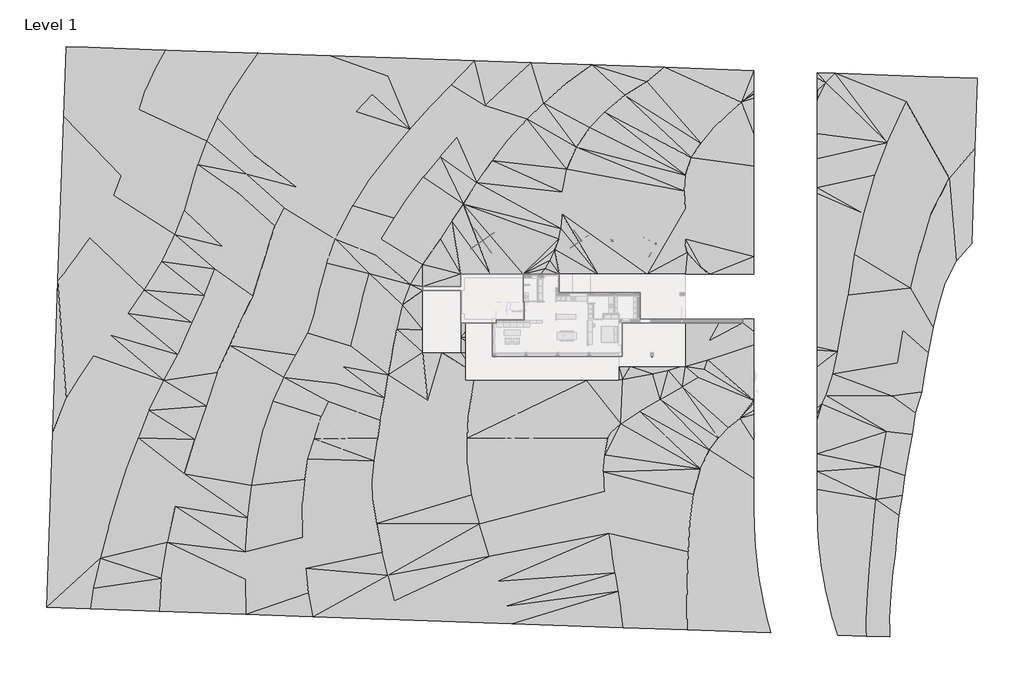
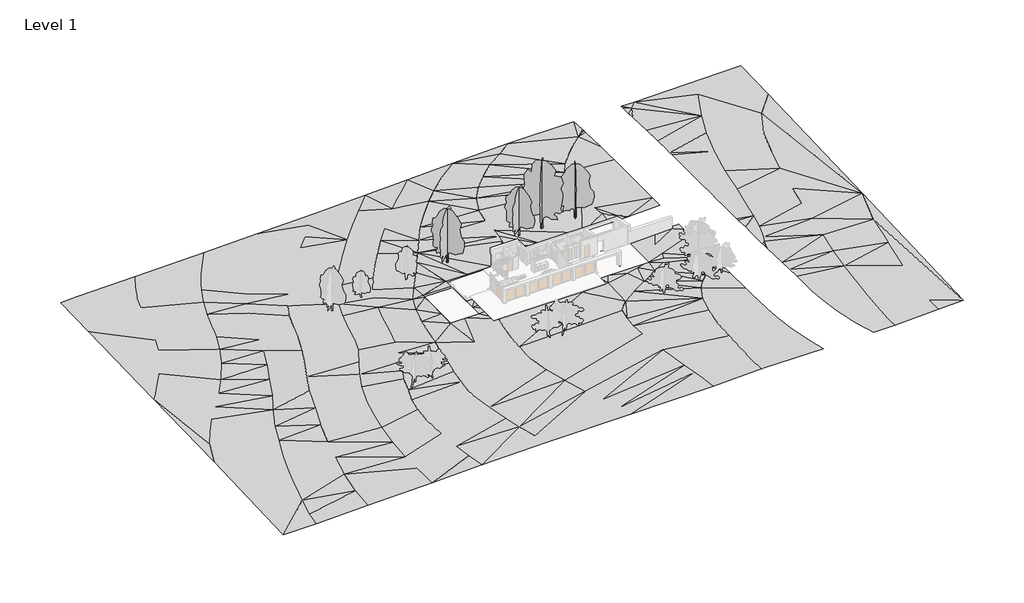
# One storey, part 3 of 3: 4 geographic elements, 3 proxies.
"""IFC4 building model written with IfcOpenShell, lengths in millimetres."""

from ifc_helpers import new_model, si_unit, origin, place, context, project, spatial, triangles, transform, mapped, element, save
from components import rpc_tree_deciduous_red_ash_10_meters_836d61de, rpc_tree_deciduous_red_ash_12_5_meters_c1333066, rpc_tree_deciduous_red_ash_9_meters_3d034f76

model = new_model("IFC4")

# Units and contexts
model_context = context("Model", 3, world=origin())
ifc_project = project(units=[si_unit("LENGTHUNIT", "METRE", prefix="MILLI")], contexts=[model_context])

# Site, building, storey
site = spatial("IfcSite", under=ifc_project)
building = spatial("IfcBuilding", under=site)
storey = spatial("IfcBuildingStorey", under=building, Name="Level 1", Elevation=0.0)

# Proxies
placement = place(None, origin())
element("IfcBuildingElementProxy", 1, Name="Building Element Proxy", at=placement, inside=storey, context=model_context, shape_type="Tessellation", body=[
    triangles([(-46953.7851562, 38871.0994446, -4500.0000343), (-49621.5199951, 38964.2565491, -4680.0000938), (-49929.7151367, 30138.6231628, -4500.0000343), (-50649.7037476, 9520.9188538, -4000.0000305), (-51317.0816162, -9590.3338028, -3500.0000267), (-52085.425415, -31592.7344055, -3200.0000244), (-46586.1889893, -31784.771521, -3000.0000229), (-37923.8781921, -32087.2670105, -2500.0000191), (-27030.4291626, -32467.6740234, -2000.0000153), (-18650.6906525, -32760.3003479, -1500.0000114), (-7695.7035187, -33142.8583923, -1000.0000076), (6366.1695557, -33633.9098145, -500.0000038), (20364.4523254, -34122.7404419, 0.0), (28439.6594238, -34404.7325317, 500.0000038), (38909.4250122, -34770.3450989, 732.5113203), (38660.0983704, -33838.7438232, 727.5312464), (38496.4269653, -33227.195105, 724.1432264), (38296.7438049, -32339.5469604, 720.0681845), (37979.8236145, -30930.749231, 711.3854296), (37970.4497681, -30879.5291016, 711.1172773), (37597.8329773, -28843.8975403, 702.2646927), (37556.0052979, -28615.3835815, 700.9963835), (37383.4948975, -27398.3625183, 695.3462923), (37225.6556946, -26284.8467651, 691.036381), (37113.2113953, -25170.6636108, 687.7205223), (36989.3073303, -23942.9083191, 683.5437424), (36919.8743591, -22793.7342773, 680.6525671), (36847.346228, -21593.3587097, 676.5660433), (36841.6116943, -21308.3412231, 675.8446484), (36800.0002808, -19240.0000305, 669.4712729), (36800.0002808, -18948.8236176, 668.7008257), (36800.0002808, -17589.3252045, 665.8135019), (36800.0002808, -15347.0574188, 652.491568), (36800.0002808, -10590.5210083, 586.4319374), (36800.0002808, -7318.6096756, 500.0000038), (36800.0002808, -7159.5135727, 500.0000038), (36800.0002808, -6801.134285, 500.0000038), (36800.0002808, -5889.4184235, 428.2519486), (36800.0002808, -5525.9638641, 427.0949335), (36800.0002808, 1452.796788, 175.4964827), (36800.0002808, 3130.8420364, 174.632055), (36800.0002808, 4335.0359756, 168.2467072), (36800.0002808, 4680.0000938, 168.2467072), (35399.9996887, 4680.0000938, 126.4799706), (35399.9996887, 4375.9878365, 126.4799706), (35399.9996887, 4200.000032, 127.4131622), (32396.1528076, 4200.000032, 38.2641161), (31155.4448181, 4200.000032, 0.0), (28199.9996338, 4200.000032, -109.999999), (22559.999707, 4200.000032, -109.999999), (20292.0009338, 4200.000032, -109.999999), (20279.9993408, 4200.000032, -110.153796), (20279.9993408, 4180.7977158, -110.1589919), (20279.9993408, 4109.2683609, -109.999999), (20279.9993408, 479.9999891, -109.999999), (20279.9993408, 0.0, -120.7865136), (19812.5581055, 0.0, -120.7865136), (19250.5784546, 0.0, -118.1668788), (17667.3262573, 0.0, -144.7757016), (14987.8142303, 0.0, -179.1166832), (14457.452417, 0.0, -245.2125943), (10418.7047516, 0.0, -308.7336262), (8427.2454941, 0.0, -355.3521832), (3959.9998558, 0.0, -459.6536656), (3959.9998558, 1855.0494152, -468.2176051), (3959.9998558, 3681.3200638, -476.3794979), (3959.9998558, 4200.000032, -485.6876143), (3049.9998779, 4200.000032, -500.0000038), (1510.8169384, 4200.000032, -700.0000053), (0.0, 4200.000032, -709.9999763), (0.0, 8279.9998306, -709.9999763), (-861.4918196, 8279.9998306, -709.9999763), (-4800.0000366, 8279.9998306, -709.9999763), (-4800.0000366, 8760.0001831, -709.9999763), (0.0, 8760.0001831, -709.9999763), (0.0, 10320.0003113, -750.0000057), (3697.284787, 10320.0003113, -750.0000057), (7800.0000595, 10320.0003113, -750.0000057), (10033.0038757, 10320.0003113, -500.0000038), (12360.0002106, 10320.0003113, -210.0000089), (12360.0002106, 8039.9999451, -275.5292212), (12940.5636108, 8039.9999451, -203.1769333), (15315.0593719, 8039.9999451, -172.7451063), (18343.2756958, 8039.9999451, -109.999999), (22559.999707, 8039.9999451, -109.999999), (22559.999707, 4680.0000938, -109.999999), (23649.3332153, 4680.0000938, -109.999999), (28199.9996338, 4680.0000938, -109.999999), (28199.9996338, 6685.1878738, -109.999999), (28199.9996338, 10320.0003113, -109.999999), (31160.4561401, 10320.0003113, 0.0), (31293.4410461, 10320.0003113, 3.8013986), (36800.0002808, 10320.0003113, 157.6770761), (36800.0002808, 11108.9823853, 154.3134007), (36800.0002808, 12545.184256, 145.0686252), (36800.0002808, 18352.7413971, 191.7683274), (36800.0002808, 23927.8883057, 163.1350824), (36800.0002808, 25676.6234253, 137.0813856), (36800.0002808, 27954.2634705, 98.0944394), (36800.0002808, 32439.4827209, 0.0), (36800.0002808, 32632.8569641, 0.0), (36800.0002808, 32989.4235718, 0.0), (36800.0002808, 33016.9428223, -1.2834803), (36800.0002808, 33373.8745239, -43.6492116), (36800.0002808, 35946.3523865, -238.3495866), (25573.0041687, 36338.4075256, -500.0000038), (16435.5223755, 36657.4950256, -1000.0000076), (8829.2006104, 36923.1136963, -1500.0000114), (1661.476783, 37173.4170227, -2000.0000153), (-6929.3345993, 37473.4126648, -2500.0000191), (-16521.2113312, 37808.3689636, -3000.0000229), (-25508.4732239, 38122.2125977, -3500.0000267), (-37176.9284363, 38529.683075, -4000.0000305), (50954.1874878, -35190.9566345, 1000.0000076), (58272.5640381, -35446.520105, 1500.0000114), (62444.7651855, -35592.215863, 1800.0000137), (63558.9250854, -3686.8092636, 1500.0000114), (64599.5545898, 26112.9084229, 1000.0000076), (64908.6706055, 34964.7750916, 700.0000053), (58517.2514282, 35187.9684448, 500.0000038), (47027.1946289, 35589.2090698, 0.0), (44800.0003418, 35666.9857178, -51.9058252), (44800.0003418, 34981.1810669, 0.0), (44800.0003418, 34115.1083496, 0.0), (44800.0003418, 33916.8762634, 0.0), (44800.0003418, 33509.6150757, 0.0), (44800.0003418, 32201.0321594, 59.4666146), (44800.0003418, 28019.1362549, 245.6447627), (44800.0003418, 24843.7672852, 272.1664541), (44800.0003418, 22148.3178589, 331.1175797), (44800.0003418, 21191.2437195, 347.5000826), (44800.0003418, 20456.4164795, 358.4479245), (44800.0003418, 18113.7176147, 370.4797482), (44800.0003418, 15673.3572693, 350.8563457), (44800.0003418, 12199.8251038, 373.2153371), (44800.0003418, 8288.7045319, 389.8896463), (44800.0003418, 7643.0485931, 389.8896463), (44800.0003418, 4642.4416306, 406.9137889), (44800.0003418, 4101.0258408, 406.9137889), (44800.0003418, 1188.6174191, 422.357105), (44800.0003418, 788.1837215, 422.5633787), (44800.0003418, -1359.7290676, 500.0000038), (44800.0003418, -3180.1678047, 500.0000038), (44800.0003418, -5058.3575226, 500.0000038), (44800.0003418, -5738.4939148, 500.0000038), (44800.0003418, -6174.5248581, 500.0000038), (44800.0003418, -6407.8513138, 500.0000038), (44800.0003418, -6440.0976013, 501.6879458), (44800.0003418, -6457.6145554, 501.8563222), (44800.0003418, -7315.7953125, 554.9484667), (44800.0003418, -7850.5179062, 558.4124994), (44800.0003418, -12295.5808868, 744.9342539), (44800.0003418, -14470.3400024, 802.3834362), (44800.0003418, -16743.1710388, 833.9488787), (44800.0003418, -17814.6009888, 840.3145512), (44800.0003418, -19240.0000305, 843.3418373), (44828.6637085, -20610.7605469, 846.8766506), (44844.1557861, -21351.6269531, 849.1722227), (44866.1776978, -21702.2032288, 850.5764248), (44976.552356, -23459.5610779, 856.6501093), (45104.8887085, -24682.6701416, 861.9936785), (45196.9575073, -25560.1189087, 865.0557009), (45219.3375366, -25711.9259216, 865.7265902), (45360.2080078, -26667.5303833, 869.5438717), (45504.9805664, -27649.6262512, 874.2256353), (45839.6717651, -29407.1608337, 884.2656475), (45900.091333, -29724.4298401, 885.6971008), (46010.5543579, -30196.228949, 888.2806641), (46381.5875244, -31780.8996643, 898.3694378), (46689.7640625, -32886.6065918, 906.4997555), (46829.048584, -33386.3621338, 909.3915121), (46948.6412842, -33815.4452454, 911.7909296), (47353.9886353, -35065.2364014, 920.047257), (-47804.900647, 36159.5323975, -4500.0000343), (-48724.0677979, 33562.1583801, -4500.0000343), (-38506.7844727, 36116.535022, -4000.0000305), (-39653.0307861, 33473.7591248, -4000.0000305), (-40409.8031982, 31009.0118958, -4000.0000305), (-41173.2589233, 28352.8693726, -4000.0000305), (-41642.9372314, 25878.0971741, -4000.0000305), (-42713.5323486, 22657.7937378, -4000.0000305), (-43661.7023804, 20199.7321472, -4000.0000305), (-45095.038147, 17566.9823822, -4000.0000305), (-46627.4190308, 14841.8766266, -4000.0000305), (-48235.4418091, 12694.2995728, -4000.0000305), (-49645.3883057, 10731.4345001, -4000.0000305), (-27175.2342773, 35724.1496704, -3500.0000267), (-29021.5587891, 32955.8535278, -3500.0000267), (-30624.0493469, 30012.4052856, -3500.0000267), (-31976.8946777, 27060.2412964, -3500.0000267), (-33080.0924561, 24099.3592346, -3500.0000267), (-33927.8337341, 21296.190802, -3500.0000267), (-34781.3862854, 18326.5906677, -3500.0000267), (-35970.7067139, 15285.3983917, -3500.0000267), (-37587.7266174, 11925.8755463, -3500.0000267), (-39795.9708984, 8337.0475113, -3500.0000267), (-41814.5407104, 5408.1309402, -3500.0000267), (-44076.9421509, 2654.36269, -3500.0000267), (-46167.1029419, 61.2133739, -3500.0000267), (-47927.3071289, -2626.7751297, -3500.0000267), (-49604.2931396, -5317.6696014, -3500.0000267), (-18248.1733612, 35796.273175, -3000.0000229), (-19974.6947205, 33803.4134216, -3000.0000229), (-21593.2842957, 31806.7864563, -3000.0000229), (-23255.3898193, 29595.5586365, -3000.0000229), (-24777.3597107, 27271.3749207, -3000.0000229), (-25892.2823547, 25257.1583313, -3000.0000229), (-27018.5136108, 22919.1568542, -3000.0000229), (-27995.588855, 20520.1125916, -3000.0000229), (-29188.3067505, 17206.4846191, -3000.0000229), (-30050.0425232, 13881.2980499, -3000.0000229), (-30938.7045593, 10971.2838135, -3000.0000229), (-32256.9845581, 7620.6162415, -3000.0000229), (-33824.946991, 4237.245433, -3000.0000229), (-35580.0700928, 239.0619341, -3000.0000229), (-37350.5620239, -3012.9672546, -3000.0000229), (-39222.5826416, -6799.9523804, -3000.0000229), (-40545.1949341, -10274.7379578, -3000.0000229), (-42002.0408936, -14034.7979828, -3000.0000229), (-43162.0538086, -17598.1083893, -3000.0000229), (-44249.9036865, -21357.4870605, -3000.0000229), (-45323.368396, -25428.6664673, -3000.0000229), (-46221.2205688, -29177.281842, -3000.0000229), (-9207.6158844, 35240.5629089, -2500.0000191), (-11137.4748322, 32896.1687988, -2500.0000191), (-13153.5389832, 30774.0401917, -2500.0000191), (-15247.4646606, 28216.1219055, -2500.0000191), (-17270.0830627, 25906.290802, -2500.0000191), (-19073.7148315, 23588.8113281, -2500.0000191), (-20693.0811035, 21300.916095, -2500.0000191), (-22295.797229, 18727.4115509, -2500.0000191), (-23423.2842224, 16353.4332001, -2500.0000191), (-24353.7553345, 13432.2708069, -2500.0000191), (-25088.5174622, 10958.1299652, -2500.0000191), (-26199.9356689, 7600.2389969, -2500.0000191), (-27677.9291748, 4420.8417847, -2500.0000191), (-29068.8419495, 1362.6733646, -2500.0000191), (-30620.5100281, -2019.7133469, -2500.0000191), (-32028.0008606, -6243.5729691, -2500.0000191), (-33490.206958, -10465.5216614, -2500.0000191), (-34799.5316895, -14780.4606079, -2500.0000191), (-35888.395459, -18900.40448, -2500.0000191), (-36927.5204041, -23400.083313, -2500.0000191), (-37652.0319946, -27910.747522, -2500.0000191), (-1225.6073124, 34171.2956177, -2000.0000153), (-3648.3432976, 31635.8806091, -2000.0000153), (-6424.0677658, 28541.1532288, -2000.0000153), (-9011.1389236, 25392.2012512, -2000.0000153), (-11703.3368042, 21961.1013794, -2000.0000153), (-13619.3221802, 18931.6246674, -2000.0000153), (-15354.9615875, 15610.0309021, -2000.0000153), (-15816.3997009, 14760.0002289, -2000.0000153), (-16870.9841675, 11756.7637756, -2000.0000153), (-17690.999231, 8736.6510269, -2000.0000153), (-18369.9391846, 5663.9763702, -2000.0000153), (-19269.4435822, 2924.0959351, -2000.0000153), (-20752.9518677, 173.7010799, -2000.0000153), (-22280.0005188, -2631.1739891, -2000.0000153), (-23670.9598022, -5631.3481293, -2000.0000153), (-24842.2999329, -9163.19534, -2000.0000153), (-25629.6914062, -12613.1766174, -2000.0000153), (-26299.6900452, -16248.276828, -2000.0000153), (-26825.9997803, -20338.5608826, -2000.0000153), (-27084.4653992, -24602.5447998, -2000.0000153), (-27095.4089172, -28053.4411377, -2000.0000153), (6530.6461441, 34783.9791504, -1500.0000114), (4620.450531, 33002.6925293, -1500.0000114), (3066.3930634, 31553.5112183, -1500.0000114), (1370.8141468, 29639.4420044, -1500.0000114), (-516.9754938, 27531.0776733, -1500.0000114), (-2589.5535645, 25118.0621704, -1500.0000114), (-4750.6559555, 22542.4449646, -1500.0000114), (-6663.5223358, 19958.1585205, -1500.0000114), (-8368.0799194, 17408.0223175, -1500.0000114), (-9995.6712708, 14760.0002289, -1500.0000114), (-10808.2844604, 12770.9914032, -1500.0000114), (-11554.044754, 10394.4876251, -1500.0000114), (-12309.9183838, 7728.3753616, -1500.0000114), (-13047.5361511, 4398.854464, -1500.0000114), (-13860.6748901, 1279.0866062, -1500.0000114), (-14860.4510742, -1254.238995, -1500.0000114), (-15805.8515076, -3416.6545326, -1500.0000114), (-16671.3963501, -5664.7048141, -1500.0000114), (-17541.7176453, -7559.6763565, -1500.0000114), (-18441.5638824, -10402.0778595, -1500.0000114), (-19243.3021545, -12898.8242981, -1500.0000114), (-19666.0740234, -15456.4414398, -1500.0000114), (-19962.7233582, -18494.8303986, -1500.0000114), (-19872.700946, -22737.6377014, -1500.0000114), (-19533.1565552, -26655.7031982, -1500.0000114), (-19165.366214, -29764.932019, -1500.0000114), (13174.4621246, 34260.8064331, -1000.0000076), (10405.5125336, 31837.5217896, -1000.0000076), (8308.4335602, 29829.0304321, -1000.0000076), (5971.4750427, 27226.3102295, -1000.0000076), (3908.0937218, 24614.039447, -1000.0000076), (2003.1268593, 21831.8883362, -1000.0000076), (266.1277421, 19153.4367096, -1000.0000076), (-1178.1869511, 17012.5859894, -1000.0000076), (-2626.3231224, 14760.0002289, -1000.0000076), (-9670.766684, -5234.5560699, -1000.0000076), (-10129.5131012, -8064.3926422, -1000.0000076), (-10459.8429382, -10240.0005432, -1000.0000076), (-10887.4924164, -13162.0338135, -1000.0000076), (-11139.5316833, -15673.213092, -1000.0000076), (-11057.54599, -18031.7098297, -1000.0000076), (-10558.8531738, -21007.3619202, -1000.0000076), (-9864.2281311, -24647.244397, -1000.0000076), (-9199.4791718, -27573.9122681, -1000.0000076), (-8378.2269745, -30725.1757324, -1000.0000076), (23374.466272, 34562.002002, -500.0000038), (20575.6394348, 32851.9273132, -500.0000038), (18089.8202362, 30692.6637634, -500.0000038), (16213.5138336, 28731.2439514, -500.0000038), (14486.0692749, 26326.369812, -500.0000038), (13292.4026001, 23519.3806824, -500.0000038), (12753.4122437, 20634.7474548, -500.0000038), (12712.5914795, 17897.0633972, -500.0000038), (12540.1078217, 16095.2745392, -500.0000038), (12275.3890961, 14760.0002289, -500.0000038), (11804.7329407, 13441.0074829, -500.0000038), (10591.4779266, 11009.3431183, -500.0000038), (1331.2318245, -4805.3549423, -500.0000038), (922.3623047, -7548.4032074, -500.0000038), (772.1115194, -10240.0005432, -500.0000038), (766.9000643, -13569.0147858, -500.0000038), (1289.7362469, -17422.0249512, -500.0000038), (2312.654187, -21073.369519, -500.0000038), (3539.1485092, -25170.082251, -500.0000038), (4579.2629288, -28328.9871094, -500.0000038), (5566.5724319, -31431.2675171, -500.0000038), (45853.6151001, 34398.4817505, 0.0), (44827.8870117, 33510.6312927, 0.0), (35253.3202698, 31973.9576477, 0.0), (33432.2849121, 30398.3607971, 0.0), (31588.2416565, 28598.7125061, 0.0), (30117.9988403, 26827.432251, 0.0), (28934.4757324, 24963.294873, 0.0), (28154.5651978, 22795.1016357, 0.0), (28083.7718445, 20767.8370056, 0.0), (28215.5079895, 18609.2292297, 0.0), (28265.9444458, 16494.8850311, 0.0), (28205.2621033, 14760.0002289, 0.0), (18471.3434601, -10240.0005432, 0.0), (18084.2194153, -12416.7153534, 0.0), (17884.7978668, -14539.6392609, 0.0), (17986.1963287, -17017.6101013, 0.0), (18234.1823547, -19782.5971436, 0.0), (18555.6592438, -22236.9287292, 0.0), (18941.8891571, -24630.8802795, 0.0), (19351.754837, -27244.9114197, 0.0), (19740.1695007, -29576.294696, 0.0), (20072.572467, -31717.789563, 0.0), (55928.7396606, 31997.6980591, 500.0000038), (53559.0191895, 26888.0518066, 500.0000038), (51971.7532837, 22768.1265381, 500.0000038), (50597.9627197, 17940.4851654, 500.0000038), (49433.4756592, 12831.6249115, 500.0000038), (48652.0024292, 7709.3893112, 500.0000038), (47920.2005859, 4009.7558304, 500.0000038), (47307.3914795, 579.8782677, 500.0000038), (46717.5019043, -2193.4137909, 500.0000038), (45855.9544922, -4902.4368073, 500.0000038), (45362.7241333, -5982.3604248, 500.0000038), (35009.9304749, -7826.9832962, 500.0000038), (33598.0980469, -9037.6710251, 500.0000038), (32346.5883911, -10240.0005432, 500.0000038), (31202.6024048, -11747.9096649, 500.0000038), (30077.0269226, -14173.8022888, 500.0000038), (29198.2782349, -17375.2638519, 500.0000038), (28765.9395081, -20911.9700684, 500.0000038), (28564.7052795, -24599.8635681, 500.0000038), (28438.3595032, -28217.9241211, 500.0000038), (28389.4299316, -31693.7887024, 500.0000038), (61343.7719238, 22403.0046387, 1000.0000076), (58950.3505737, 17737.2731506, 1000.0000076), (57613.0415039, 12972.2128418, 1000.0000076), (56515.3875732, 8600.577356, 1000.0000076), (55510.6209961, 3280.7064354, 1000.0000076), (54799.2923218, -852.421225, 1000.0000076), (54150.8900391, -4987.7461349, 1000.0000076), (53428.5759888, -9435.4874405, 1000.0000076), (52643.3355469, -13881.0317871, 1000.0000076), (52120.7767456, -18020.7511963, 1000.0000076), (51728.4611572, -22039.0198792, 1000.0000076), (51333.9410522, -26120.2103027, 1000.0000076), (51080.654187, -29765.3366455, 1000.0000076), (50899.0745728, -33160.9712402, 1000.0000076), (61573.4462769, -10338.8538116, 1500.0000114), (60470.1275757, -16691.1439819, 1500.0000114), (59366.8088745, -23043.4353149, 1500.0000114), (58624.3890747, -28526.835498, 1500.0000114), (58254.402356, -32811.1902649, 1500.0000114), (-4801.5566277, 11560.2036804, -1000.0000076), (-6370.3390686, 9037.8756638, -1000.0000076), (-7365.2742691, 6473.2938309, -1000.0000076), (-8635.5490585, 498.587808, -1000.0000076), (-9124.5680466, -2362.4723671, -1000.0000076), (-8095.3169174, 3438.4465164, -1000.0000076), (11160.2862305, 12039.2221161, -500.0000038), (2702.0429192, 2377.423344, -500.0000038), (2303.142849, 360.00001, -500.0000038), (1807.3141022, -2182.6769463, -500.0000038), (18916.3302521, -9569.6083237, 0.0), (20065.3147705, -8502.3664902, 0.0), (22441.5860046, -6921.7059952, 0.0), (25036.0648499, -5423.7730087, 0.0), (27818.9949829, -3858.3874535, 0.0), (29810.6524841, -2636.3684395, 0.0), (30599.0369202, -1658.8143002, 0.0), (31010.1629883, -467.3099934, 0.0), (31117.4424866, 1924.8843967, 0.0), (31160.4561401, 10340.0002533, 0.0), (30164.3727539, 11231.2098083, 0.0), (29113.3183044, 12217.3937988, 0.0), (28462.1813049, 13061.4166992, 0.0), (28207.9177551, 13840.0005707, 0.0), (-4800.0000366, 479.9999891, -709.9999763), (-4800.0000366, 3306.9086151, -709.9999763), (-4800.0000366, 6085.5692413, -709.9999763), (-2400.0000183, 479.9999891, -709.9999763), (0.0, 479.9999891, -709.9999763), (0.0, 2460.000135, -709.9999763), (-4172.7040237, -5528.9671692, -750.0000057), (21175.4284058, 479.9999891, -109.999999), (19846.5699829, -1300.0000099, -150.0000011), (21258.572168, -1300.0000099, -109.999999), (27660.0000366, -1300.0000099, -109.999999), (28199.9996338, -1300.0000099, -109.999999), (28199.9996338, 1961.4645767, -109.999999), (23399.9995972, 10320.0003113, -109.999999), (17186.2207397, 10320.0003113, -109.999999), (15763.538974, -3046.4381767, -169.9999977), (20327.2848267, -2939.360701, -150.0000011), (24071.1586304, -2208.8548542, -100.0000008), (26025.0579712, -1789.801363, -100.0000008)], [[6, 7, 223], [223, 7, 8], [6, 223, 222], [223, 244, 222], [244, 223, 8], [243, 244, 265], [222, 244, 243], [5, 6, 222], [220, 242, 219], [243, 220, 221], [5, 221, 220], [5, 222, 221], [243, 242, 220], [242, 243, 264], [219, 241, 218], [263, 241, 242], [262, 240, 241], [242, 241, 219], [221, 222, 243], [218, 241, 240], [244, 8, 9], [5, 220, 219], [264, 265, 290], [9, 265, 244], [291, 265, 9], [265, 264, 243], [288, 289, 307], [10, 291, 9], [285, 303, 284], [290, 289, 264], [289, 290, 308], [291, 290, 265], [264, 289, 263], [262, 287, 261], [288, 262, 263], [262, 261, 240], [263, 262, 241], [288, 287, 262], [305, 286, 287], [261, 286, 260], [304, 285, 286], [306, 287, 288], [287, 286, 261], [263, 289, 288], [240, 261, 260], [309, 290, 291], [264, 263, 242], [285, 260, 286], [5, 218, 201], [218, 5, 219], [201, 218, 217], [5, 201, 4], [217, 239, 216], [217, 218, 240], [215, 216, 238], [201, 217, 200], [239, 217, 240], [199, 217, 216], [216, 198, 199], [199, 200, 217], [199, 198, 4], [200, 199, 4], [215, 214, 197], [214, 215, 237], [196, 214, 213], [214, 196, 197], [214, 236, 213], [215, 197, 198], [215, 198, 216], [198, 197, 4], [239, 238, 216], [201, 200, 4], [239, 259, 238], [259, 239, 260], [260, 285, 259], [238, 259, 258], [284, 283, 258], [302, 283, 284], [258, 282, 257], [282, 258, 283], [283, 301, 282], [284, 258, 259], [285, 284, 259], [238, 258, 237], [236, 256, 235], [257, 236, 237], [236, 235, 213], [236, 214, 237], [257, 281, 256], [257, 237, 258], [255, 235, 256], [280, 255, 256], [256, 281, 280], [256, 236, 257], [282, 281, 257], [234, 235, 255], [282, 301, 281], [237, 215, 238], [240, 260, 239], [212, 213, 235], [10, 309, 291], [305, 306, 327], [307, 306, 288], [308, 307, 289], [306, 307, 327], [309, 328, 308], [310, 309, 10], [11, 310, 10], [328, 307, 308], [308, 290, 309], [309, 310, 329], [303, 325, 424], [304, 326, 303], [302, 284, 303], [303, 285, 304], [302, 424, 301], [424, 302, 303], [398, 280, 281], [398, 301, 424], [398, 424, 418], [398, 281, 301], [326, 304, 305], [301, 283, 302], [310, 11, 330], [304, 286, 305], [326, 345, 325], [327, 326, 305], [328, 327, 307], [326, 327, 346], [349, 329, 330], [12, 331, 11], [329, 348, 328], [329, 310, 330], [327, 328, 347], [330, 11, 331], [328, 309, 329], [330, 331, 351], [323, 324, 63], [433, 324, 325], [324, 323, 424], [325, 324, 424], [324, 433, 63], [323, 64, 403], [59, 60, 433], [59, 433, 426], [403, 421, 323], [433, 325, 344], [424, 323, 421], [352, 331, 12], [326, 325, 303], [60, 61, 433], [279, 280, 397], [397, 280, 398], [418, 399, 397], [419, 399, 418], [421, 423, 419], [418, 424, 421], [422, 423, 421], [423, 422, 402], [403, 422, 421], [421, 419, 418], [398, 418, 397], [419, 423, 70], [279, 399, 278], [399, 279, 397], [278, 399, 396], [279, 254, 255], [72, 420, 70], [396, 399, 419], [278, 396, 277], [420, 73, 396], [419, 420, 396], [419, 70, 420], [278, 254, 279], [423, 69, 70], [279, 255, 280], [401, 402, 65], [402, 422, 403], [65, 402, 64], [401, 69, 423], [63, 433, 62], [65, 66, 401], [63, 64, 323], [433, 61, 62], [68, 66, 67], [68, 69, 401], [80, 81, 82], [401, 66, 68], [401, 423, 402], [403, 64, 402], [80, 82, 83], [83, 84, 432], [305, 287, 306], [71, 72, 70], [3, 4, 186], [4, 197, 186], [186, 197, 185], [185, 3, 186], [213, 195, 196], [213, 212, 195], [195, 212, 194], [185, 196, 184], [196, 185, 197], [184, 196, 195], [183, 3, 184], [184, 195, 183], [182, 183, 194], [182, 3, 183], [193, 181, 182], [211, 193, 194], [180, 181, 192], [192, 181, 193], [192, 193, 210], [193, 182, 194], [195, 194, 183], [184, 3, 185], [211, 194, 212], [182, 181, 3], [211, 234, 233], [234, 211, 212], [233, 234, 254], [210, 211, 233], [254, 253, 233], [277, 252, 253], [232, 253, 252], [276, 251, 252], [251, 275, 250], [233, 253, 232], [212, 235, 234], [251, 231, 252], [209, 231, 208], [232, 209, 210], [192, 209, 191], [210, 209, 192], [232, 231, 209], [232, 252, 231], [230, 250, 229], [230, 231, 251], [250, 230, 251], [231, 230, 208], [210, 233, 232], [208, 230, 207], [253, 254, 278], [211, 210, 193], [234, 255, 254], [208, 191, 209], [3, 180, 179], [180, 3, 181], [179, 180, 191], [175, 3, 179], [179, 190, 178], [190, 179, 191], [191, 208, 190], [177, 178, 189], [180, 192, 191], [175, 179, 178], [2, 175, 174], [175, 2, 3], [175, 178, 174], [2, 174, 1], [177, 176, 1], [176, 177, 189], [113, 1, 176], [176, 188, 113], [177, 1, 174], [178, 177, 174], [190, 189, 178], [189, 207, 206], [207, 189, 190], [206, 207, 229], [188, 189, 206], [229, 228, 205], [228, 229, 249], [204, 228, 227], [228, 204, 205], [228, 249, 227], [229, 205, 206], [208, 207, 190], [188, 206, 205], [187, 204, 112], [187, 188, 205], [187, 112, 113], [188, 187, 113], [204, 203, 112], [204, 227, 203], [111, 112, 202], [202, 203, 226], [202, 225, 111], [202, 112, 203], [205, 204, 187], [227, 226, 203], [189, 188, 176], [230, 229, 207], [250, 249, 229], [395, 276, 277], [278, 277, 253], [74, 395, 73], [74, 394, 395], [72, 73, 420], [74, 75, 76], [395, 277, 396], [76, 394, 74], [275, 394, 274], [394, 275, 276], [274, 249, 250], [274, 250, 275], [300, 273, 274], [300, 394, 76], [272, 273, 299], [299, 273, 300], [300, 76, 299], [300, 274, 394], [276, 395, 394], [274, 273, 249], [76, 77, 299], [275, 251, 276], [298, 77, 78], [77, 298, 299], [79, 80, 322], [321, 80, 432], [80, 400, 322], [79, 322, 78], [400, 78, 322], [321, 320, 78], [321, 78, 400], [321, 400, 80], [78, 320, 298], [298, 319, 297], [319, 320, 432], [319, 318, 297], [341, 317, 318], [319, 432, 318], [298, 320, 319], [321, 432, 320], [272, 299, 298], [317, 340, 316], [83, 432, 80], [317, 297, 318], [248, 272, 247], [248, 249, 273], [248, 247, 226], [248, 226, 227], [272, 271, 247], [297, 270, 271], [247, 270, 246], [296, 269, 270], [272, 298, 271], [271, 270, 247], [272, 248, 273], [246, 270, 269], [225, 224, 111], [226, 247, 225], [225, 247, 224], [225, 202, 226], [246, 245, 110], [246, 269, 245], [109, 110, 245], [245, 268, 109], [246, 110, 224], [246, 224, 247], [224, 110, 111], [245, 269, 268], [227, 249, 248], [296, 316, 295], [296, 297, 317], [295, 268, 269], [295, 269, 296], [316, 315, 294], [315, 316, 340], [293, 315, 314], [315, 293, 294], [315, 339, 314], [316, 294, 295], [317, 316, 296], [295, 294, 268], [294, 266, 267], [267, 268, 294], [267, 266, 109], [268, 267, 109], [293, 292, 108], [293, 314, 292], [107, 108, 292], [292, 313, 107], [293, 108, 266], [293, 266, 294], [266, 108, 109], [313, 292, 314], [296, 270, 297], [297, 271, 298], [432, 431, 318], [252, 277, 276], [73, 395, 396], [12, 353, 352], [352, 351, 331], [353, 13, 374], [352, 353, 374], [24, 372, 373], [14, 374, 13], [374, 21, 373], [374, 373, 352], [352, 373, 351], [371, 348, 349], [349, 348, 329], [330, 350, 349], [372, 349, 350], [372, 371, 349], [372, 351, 373], [348, 371, 370], [370, 30, 31], [27, 371, 372], [372, 350, 351], [351, 350, 330], [32, 370, 31], [374, 14, 18], [353, 12, 13], [373, 23, 24], [23, 373, 22], [18, 19, 374], [21, 374, 20], [21, 22, 373], [19, 20, 374], [371, 30, 370], [30, 371, 29], [26, 372, 25], [28, 371, 27], [27, 372, 26], [371, 28, 29], [25, 372, 24], [14, 17, 18], [369, 345, 346], [347, 346, 327], [370, 346, 347], [344, 325, 345], [345, 404, 344], [405, 404, 345], [369, 405, 345], [433, 404, 405], [347, 348, 370], [433, 344, 404], [405, 406, 434], [406, 405, 369], [434, 406, 435], [434, 433, 405], [407, 408, 436], [407, 406, 368], [434, 435, 427], [436, 435, 407], [436, 408, 428], [407, 435, 406], [407, 367, 408], [425, 435, 436], [369, 346, 370], [433, 434, 426], [368, 34, 367], [33, 368, 369], [366, 408, 367], [367, 407, 368], [34, 366, 367], [366, 365, 409], [365, 366, 34], [34, 35, 365], [34, 368, 33], [370, 32, 369], [366, 409, 408], [409, 39, 410], [409, 365, 39], [411, 410, 39], [429, 408, 409], [37, 365, 36], [39, 365, 38], [38, 365, 37], [365, 35, 36], [368, 406, 369], [32, 33, 369], [429, 409, 410], [348, 347, 328], [14, 16, 17], [16, 14, 15], [167, 168, 387], [166, 167, 387], [386, 161, 162], [386, 163, 164], [164, 165, 386], [387, 165, 166], [163, 386, 162], [160, 161, 385], [387, 168, 169], [388, 171, 172], [388, 172, 173], [393, 114, 115], [393, 388, 114], [114, 388, 173], [115, 116, 393], [171, 388, 170], [387, 386, 165], [388, 387, 169], [386, 387, 392], [386, 385, 161], [391, 386, 392], [393, 116, 392], [385, 391, 384], [385, 386, 391], [116, 391, 392], [392, 387, 393], [388, 393, 387], [170, 388, 169], [116, 390, 391], [160, 385, 159], [149, 364, 148], [149, 150, 364], [383, 152, 153], [152, 382, 151], [151, 364, 150], [154, 384, 153], [362, 142, 143], [144, 363, 143], [146, 147, 364], [364, 145, 146], [364, 144, 145], [148, 364, 147], [154, 155, 384], [156, 157, 385], [157, 158, 385], [383, 153, 384], [156, 385, 384], [383, 390, 389], [390, 383, 384], [391, 390, 384], [158, 159, 385], [382, 152, 383], [363, 362, 143], [363, 364, 382], [362, 363, 381], [363, 144, 364], [382, 389, 381], [389, 382, 383], [362, 381, 380], [117, 381, 389], [390, 116, 389], [382, 381, 363], [151, 382, 364], [142, 362, 361], [116, 117, 389], [155, 156, 384], [117, 380, 381], [58, 426, 57], [58, 59, 426], [57, 426, 56], [56, 427, 425], [427, 56, 426], [50, 425, 436], [426, 434, 427], [425, 55, 56], [54, 51, 53], [54, 55, 425], [52, 53, 51], [54, 50, 51], [425, 50, 54], [427, 435, 425], [428, 429, 430], [429, 428, 408], [430, 429, 411], [430, 50, 436], [411, 40, 412], [411, 39, 40], [430, 412, 49], [40, 46, 412], [411, 412, 430], [410, 411, 429], [41, 46, 40], [87, 88, 89], [49, 412, 48], [42, 45, 46], [47, 48, 412], [412, 46, 47], [45, 43, 44], [50, 430, 49], [428, 430, 436], [86, 87, 85], [84, 85, 431], [431, 85, 89], [341, 318, 431], [431, 90, 416], [431, 416, 417], [89, 90, 431], [89, 85, 87], [343, 431, 417], [311, 312, 337], [313, 338, 312], [311, 106, 107], [313, 312, 107], [338, 339, 97], [313, 314, 339], [313, 339, 338], [336, 106, 311], [342, 431, 343], [340, 339, 315], [317, 341, 340], [311, 107, 312], [417, 415, 343], [432, 84, 431], [415, 414, 343], [415, 416, 90], [415, 90, 414], [96, 342, 343], [91, 414, 90], [413, 92, 414], [92, 413, 91], [414, 92, 95], [91, 413, 414], [414, 95, 343], [338, 97, 337], [342, 341, 431], [96, 341, 342], [339, 340, 97], [337, 336, 311], [336, 337, 98], [335, 334, 106], [335, 336, 99], [96, 340, 341], [336, 335, 106], [335, 99, 334], [338, 337, 312], [415, 417, 416], [106, 334, 105], [41, 42, 46], [42, 43, 45], [139, 360, 138], [137, 138, 360], [140, 360, 139], [94, 95, 92], [93, 94, 92], [136, 137, 359], [136, 359, 135], [95, 96, 343], [361, 140, 141], [360, 379, 359], [380, 360, 361], [359, 358, 135], [360, 359, 137], [378, 359, 379], [378, 117, 377], [358, 378, 377], [358, 359, 378], [117, 378, 379], [379, 360, 380], [134, 135, 358], [133, 357, 132], [357, 133, 134], [377, 376, 357], [376, 377, 117], [356, 131, 357], [131, 132, 357], [357, 376, 356], [134, 358, 357], [358, 377, 357], [380, 117, 379], [360, 140, 361], [361, 141, 142], [98, 99, 336], [99, 100, 334], [128, 129, 355], [355, 127, 128], [356, 129, 130], [101, 102, 334], [334, 102, 103], [105, 334, 104], [334, 103, 104], [100, 101, 334], [127, 333, 126], [337, 97, 98], [333, 332, 125], [333, 125, 126], [355, 129, 356], [127, 355, 332], [375, 118, 354], [375, 376, 117], [127, 332, 333], [354, 355, 375], [118, 120, 354], [375, 355, 356], [130, 131, 356], [354, 121, 355], [123, 124, 332], [122, 123, 332], [125, 332, 124], [120, 121, 354], [121, 332, 355], [332, 121, 122], [118, 119, 120], [376, 375, 356], [118, 375, 117], [97, 340, 96], [362, 380, 361], [326, 346, 345]], closed=False),
])
element("IfcBuildingElementProxy", 2, Name="Building Element Proxy", at=placement, inside=storey, context=model_context, shape_type="Tessellation", body=[
    triangles([(28199.9996338, 4680.0000938, -1000.1595182), (28199.9996338, 4680.0000938, -109.999999), (23649.3332153, 4680.0000938, -1000.1595182), (23649.3332153, 4680.0000938, -109.999999), (22559.999707, 4680.0000938, -1000.1595182), (22559.999707, 4680.0000938, -109.999999), (22559.999707, 8039.9999451, -1000.1595182), (22559.999707, 8039.9999451, -109.999999), (18343.2756958, 8039.9999451, -1000.1595182), (18343.2756958, 8039.9999451, -109.999999), (15315.0593719, 8039.9999451, -1000.1595182), (15315.0593719, 8039.9999451, -172.7451063), (12940.5636108, 8039.9999451, -1000.1595182), (12940.5636108, 8039.9999451, -203.1769333), (12360.0002106, 8039.9999451, -1000.1595182), (12360.0002106, 8039.9999451, -275.5292212), (12360.0002106, 10320.0003113, -1000.1595182), (12360.0002106, 10320.0003113, -210.0000089), (10033.0038757, 10320.0003113, -1000.1595182), (10033.0038757, 10320.0003113, -500.0000038), (7800.0000595, 10320.0003113, -1000.1595182), (7800.0000595, 10320.0003113, -750.0000057)], [[1, 4, 2], [1, 3, 4], [3, 6, 4], [3, 5, 6], [5, 8, 6], [5, 7, 8], [7, 10, 8], [7, 9, 10], [9, 12, 10], [9, 11, 12], [11, 14, 12], [11, 13, 14], [13, 16, 14], [13, 15, 16], [15, 18, 16], [15, 17, 18], [17, 20, 18], [17, 19, 20], [19, 22, 20], [19, 21, 22]], closed=False),
    triangles([(3959.9998558, 4200.000032, -1000.1595182), (3959.9998558, 4200.000032, -485.6876143), (3959.9998558, 3681.3200638, -1000.1595182), (3959.9998558, 3681.3200638, -476.3794979), (3959.9998558, 1855.0494152, -1000.1595182), (3959.9998558, 1855.0494152, -468.2176051), (3959.9998558, 0.0, -1000.1595182), (3959.9998558, 0.0, -459.6536656), (8427.2454941, 0.0, -1000.1595182), (8427.2454941, 0.0, -355.3521832), (10418.7047516, 0.0, -1000.1595182), (10418.7047516, 0.0, -308.7336262), (14457.452417, 0.0, -1000.1595182), (14457.452417, 0.0, -245.2125943), (14987.8142303, 0.0, -1000.1595182), (14987.8142303, 0.0, -179.1166832), (17667.3262573, 0.0, -1000.1595182), (17667.3262573, 0.0, -144.7757016), (19250.5784546, 0.0, -1000.1595182), (19250.5784546, 0.0, -118.1668788), (19812.5581055, 0.0, -1000.1595182), (19812.5581055, 0.0, -120.7865136), (20279.9993408, 0.0, -1000.1595182), (20279.9993408, 0.0, -120.7865136), (20279.9993408, 479.9999891, -1000.1595182), (20279.9993408, 479.9999891, -109.999999), (20279.9993408, 4109.2683609, -1000.1595182), (20279.9993408, 4109.2683609, -109.999999), (20279.9993408, 4180.7977158, -1000.1595182), (20279.9993408, 4180.7977158, -110.1589919), (20279.9993408, 4200.000032, -1000.1595182), (20279.9993408, 4200.000032, -110.153796), (20292.0009338, 4200.000032, -1000.1595182), (20292.0009338, 4200.000032, -109.999999), (22559.999707, 4200.000032, -1000.1595182), (22559.999707, 4200.000032, -109.999999), (28199.9996338, 4200.000032, -1000.1595182), (28199.9996338, 4200.000032, -109.999999), (31155.4448181, 4200.000032, -1000.1595182), (31155.4448181, 4200.000032, 0.0), (32396.1528076, 4200.000032, -1000.1595182), (32396.1528076, 4200.000032, 38.2641161), (35399.9996887, 4200.000032, -1000.1595182), (35399.9996887, 4200.000032, 127.4131622), (35399.9996887, 4375.9878365, -1000.1595182), (35399.9996887, 4375.9878365, 126.4799706), (35399.9996887, 4680.0000938, -1000.1595182), (35399.9996887, 4680.0000938, 126.4799706)], [[1, 4, 2], [1, 3, 4], [3, 6, 4], [3, 5, 6], [5, 8, 6], [5, 7, 8], [7, 10, 8], [7, 9, 10], [9, 12, 10], [9, 11, 12], [11, 14, 12], [11, 13, 14], [13, 16, 14], [13, 15, 16], [15, 18, 16], [15, 17, 18], [17, 20, 18], [17, 19, 20], [19, 22, 20], [19, 21, 22], [21, 24, 22], [21, 23, 24], [23, 26, 24], [23, 25, 26], [25, 28, 26], [25, 27, 28], [27, 30, 28], [27, 29, 30], [29, 32, 30], [29, 31, 32], [31, 34, 32], [31, 33, 34], [33, 36, 34], [33, 35, 36], [35, 38, 36], [35, 37, 38], [37, 40, 38], [37, 39, 40], [39, 42, 40], [39, 41, 42], [41, 44, 42], [41, 43, 44], [43, 46, 44], [43, 45, 46], [45, 48, 46], [45, 47, 48]], closed=False),
    triangles([(28199.9996338, 4680.0000938, -1000.1595182), (28199.9996338, 4680.0000938, -109.999999), (23649.3332153, 4680.0000938, -1000.1595182), (23649.3332153, 4680.0000938, -109.999999), (22559.999707, 4680.0000938, -1000.1595182), (22559.999707, 4680.0000938, -109.999999), (22559.999707, 8039.9999451, -1000.1595182), (22559.999707, 8039.9999451, -109.999999), (18343.2756958, 8039.9999451, -1000.1595182), (18343.2756958, 8039.9999451, -109.999999), (15315.0593719, 8039.9999451, -1000.1595182), (15315.0593719, 8039.9999451, -172.7451063), (12940.5636108, 8039.9999451, -1000.1595182), (12940.5636108, 8039.9999451, -203.1769333), (12360.0002106, 8039.9999451, -1000.1595182), (12360.0002106, 8039.9999451, -275.5292212), (12360.0002106, 10320.0003113, -1000.1595182), (12360.0002106, 10320.0003113, -210.0000089), (10033.0038757, 10320.0003113, -1000.1595182), (10033.0038757, 10320.0003113, -500.0000038), (7800.0000595, 10320.0003113, -1000.1595182), (7800.0000595, 10320.0003113, -750.0000057)], [[1, 4, 2], [1, 3, 4], [3, 6, 4], [3, 5, 6], [5, 8, 6], [5, 7, 8], [7, 10, 8], [7, 9, 10], [9, 12, 10], [9, 11, 12], [11, 14, 12], [11, 13, 14], [13, 16, 14], [13, 15, 16], [15, 18, 16], [15, 17, 18], [17, 20, 18], [17, 19, 20], [19, 22, 20], [19, 21, 22]], closed=False),
    triangles([(3959.9998558, 4200.000032, -1000.1595182), (3959.9998558, 4200.000032, -485.6876143), (3959.9998558, 3681.3200638, -1000.1595182), (3959.9998558, 3681.3200638, -476.3794979), (3959.9998558, 1855.0494152, -1000.1595182), (3959.9998558, 1855.0494152, -468.2176051), (3959.9998558, 0.0, -1000.1595182), (3959.9998558, 0.0, -459.6536656), (8427.2454941, 0.0, -1000.1595182), (8427.2454941, 0.0, -355.3521832), (10418.7047516, 0.0, -1000.1595182), (10418.7047516, 0.0, -308.7336262), (14457.452417, 0.0, -1000.1595182), (14457.452417, 0.0, -245.2125943), (14987.8142303, 0.0, -1000.1595182), (14987.8142303, 0.0, -179.1166832), (17667.3262573, 0.0, -1000.1595182), (17667.3262573, 0.0, -144.7757016), (19250.5784546, 0.0, -1000.1595182), (19250.5784546, 0.0, -118.1668788), (19812.5581055, 0.0, -1000.1595182), (19812.5581055, 0.0, -120.7865136), (20279.9993408, 0.0, -1000.1595182), (20279.9993408, 0.0, -120.7865136), (20279.9993408, 479.9999891, -1000.1595182), (20279.9993408, 479.9999891, -109.999999), (20279.9993408, 4109.2683609, -1000.1595182), (20279.9993408, 4109.2683609, -109.999999), (20279.9993408, 4180.7977158, -1000.1595182), (20279.9993408, 4180.7977158, -110.1589919), (20279.9993408, 4200.000032, -1000.1595182), (20279.9993408, 4200.000032, -110.153796), (20292.0009338, 4200.000032, -1000.1595182), (20292.0009338, 4200.000032, -109.999999), (22559.999707, 4200.000032, -1000.1595182), (22559.999707, 4200.000032, -109.999999), (28199.9996338, 4200.000032, -1000.1595182), (28199.9996338, 4200.000032, -109.999999), (31155.4448181, 4200.000032, -1000.1595182), (31155.4448181, 4200.000032, 0.0), (32396.1528076, 4200.000032, -1000.1595182), (32396.1528076, 4200.000032, 38.2641161), (35399.9996887, 4200.000032, -1000.1595182), (35399.9996887, 4200.000032, 127.4131622), (35399.9996887, 4375.9878365, -1000.1595182), (35399.9996887, 4375.9878365, 126.4799706), (35399.9996887, 4680.0000938, -1000.1595182), (35399.9996887, 4680.0000938, 126.4799706)], [[1, 4, 2], [1, 3, 4], [3, 6, 4], [3, 5, 6], [5, 8, 6], [5, 7, 8], [7, 10, 8], [7, 9, 10], [9, 12, 10], [9, 11, 12], [11, 14, 12], [11, 13, 14], [13, 16, 14], [13, 15, 16], [15, 18, 16], [15, 17, 18], [17, 20, 18], [17, 19, 20], [19, 22, 20], [19, 21, 22], [21, 24, 22], [21, 23, 24], [23, 26, 24], [23, 25, 26], [25, 28, 26], [25, 27, 28], [27, 30, 28], [27, 29, 30], [29, 32, 30], [29, 31, 32], [31, 34, 32], [31, 33, 34], [33, 36, 34], [33, 35, 36], [35, 38, 36], [35, 37, 38], [37, 40, 38], [37, 39, 40], [39, 42, 40], [39, 41, 42], [41, 44, 42], [41, 43, 44], [43, 46, 44], [43, 45, 46], [45, 48, 46], [45, 47, 48]], closed=False),
    triangles([(35399.9996887, 4680.0000938, -1000.1595182), (35399.9996887, 4680.0000938, 126.4799706), (31160.4561401, 4680.0000938, -1000.1595182), (31160.4561401, 4680.0000938, 0.0), (30916.594281, 4680.0000938, -1000.1595182), (30916.594281, 4680.0000938, -9.0610056), (28199.9996338, 4680.0000938, -1000.1595182), (28199.9996338, 4680.0000938, -109.999999)], [[1, 4, 2], [1, 3, 4], [3, 6, 4], [3, 5, 6], [5, 8, 6], [5, 7, 8]], closed=False),
    triangles([(35399.9996887, 4680.0000938, -1000.1595182), (35399.9996887, 4680.0000938, 126.4799706), (31160.4561401, 4680.0000938, -1000.1595182), (31160.4561401, 4680.0000938, 0.0), (30916.594281, 4680.0000938, -1000.1595182), (30916.594281, 4680.0000938, -9.0610056), (28199.9996338, 4680.0000938, -1000.1595182), (28199.9996338, 4680.0000938, -109.999999)], [[1, 4, 2], [1, 3, 4], [3, 6, 4], [3, 5, 6], [5, 8, 6], [5, 7, 8]], closed=False),
    triangles([(4439.9999176, 4200.000032, -1000.1595182), (3959.9998558, 4200.000032, -1000.1595182), (3959.9998558, 0.0, -1000.1595182), (20279.9993408, 0.0, -1000.1595182), (20279.9993408, 4200.000032, -1000.1595182), (35399.9996887, 4200.000032, -1000.1595182), (35399.9996887, 4680.0000938, -1000.1595182), (22559.999707, 4680.0000938, -1000.1595182), (22559.999707, 8039.9999451, -1000.1595182), (12360.0002106, 8039.9999451, -1000.1595182), (12360.0002106, 10320.0003113, -1000.1595182), (7800.0000595, 10320.0003113, -1000.1595182), (7800.0000595, 6839.9999359, -1000.1595182), (7919.9997116, 6839.9999359, -1000.1595182), (7919.9997116, 4559.9998604, -1000.1595182), (4439.9999176, 4559.9998604, -1000.1595182)], [[2, 3, 1], [16, 1, 15], [3, 15, 1], [12, 13, 14], [14, 15, 10], [12, 14, 10], [3, 4, 15], [4, 5, 10], [5, 6, 8], [8, 6, 7], [10, 11, 12], [9, 10, 5], [5, 8, 9], [4, 10, 15]], closed=False),
])
element("IfcBuildingElementProxy", 3, Name="Building Element Proxy", at=placement, inside=storey, context=model_context, shape_type="Tessellation", body=[
    triangles([(7800.0000595, 10320.0003113, -1600.1595955), (7800.0000595, 10320.0003113, -1000.1595182), (7800.0000595, 8362.9651154, -1600.1595955), (7800.0000595, 8362.9651154, -1000.1595182), (7800.0000595, 6839.9999359, -1600.1595955), (7800.0000595, 6839.9999359, -1000.1595182), (7919.9997116, 6839.9999359, -1600.1595955), (7919.9997116, 6839.9999359, -1000.1595182), (7919.9997116, 4559.9998604, -1600.1595955), (7919.9997116, 4559.9998604, -1000.1595182), (4439.9999176, 4559.9998604, -1600.1595955), (4439.9999176, 4559.9998604, -1000.1595182), (4439.9999176, 4200.000032, -1600.1595955), (4439.9999176, 4200.000032, -1000.1595182), (3959.9998558, 4200.000032, -1600.1595955), (3959.9998558, 4200.000032, -1000.1595182)], [[1, 4, 2], [1, 3, 4], [3, 6, 4], [3, 5, 6], [5, 8, 6], [5, 7, 8], [7, 10, 8], [7, 9, 10], [9, 12, 10], [9, 11, 12], [11, 14, 12], [11, 13, 14], [13, 16, 14], [13, 15, 16]], closed=False),
    triangles([(7800.0000595, 10320.0003113, -1600.1595955), (7800.0000595, 10320.0003113, -750.0000057), (3697.284787, 10320.0003113, -1600.1595955), (3697.284787, 10320.0003113, -750.0000057), (0.0, 10320.0003113, -1600.1595955), (0.0, 10320.0003113, -750.0000057), (0.0, 8760.0001831, -1600.1595955), (0.0, 8760.0001831, -709.9999763), (-4800.0000366, 8760.0001831, -1600.1595955), (-4800.0000366, 8760.0001831, -709.9999763), (-4800.0000366, 8279.9998306, -1600.1595955), (-4800.0000366, 8279.9998306, -709.9999763), (-861.4918196, 8279.9998306, -1600.1595955), (-861.4918196, 8279.9998306, -709.9999763), (0.0, 8279.9998306, -1600.1595955), (0.0, 8279.9998306, -709.9999763), (0.0, 4200.000032, -1600.1595955), (0.0, 4200.000032, -709.9999763), (1510.8169384, 4200.000032, -1600.1595955), (1510.8169384, 4200.000032, -700.0000053), (3049.9998779, 4200.000032, -1600.1595955), (3049.9998779, 4200.000032, -500.0000038), (3959.9998558, 4200.000032, -1600.1595955), (3959.9998558, 4200.000032, -485.6876143)], [[1, 4, 2], [1, 3, 4], [3, 6, 4], [3, 5, 6], [5, 8, 6], [5, 7, 8], [7, 10, 8], [7, 9, 10], [9, 12, 10], [9, 11, 12], [11, 14, 12], [11, 13, 14], [13, 16, 14], [13, 15, 16], [15, 18, 16], [15, 17, 18], [17, 20, 18], [17, 19, 20], [19, 22, 20], [19, 21, 22], [21, 24, 22], [21, 23, 24]], closed=False),
    triangles([(7800.0000595, 10320.0003113, -1600.1595955), (7800.0000595, 10320.0003113, -750.0000057), (3697.284787, 10320.0003113, -1600.1595955), (3697.284787, 10320.0003113, -750.0000057), (0.0, 10320.0003113, -1600.1595955), (0.0, 10320.0003113, -750.0000057), (0.0, 8760.0001831, -1600.1595955), (0.0, 8760.0001831, -709.9999763), (-4800.0000366, 8760.0001831, -1600.1595955), (-4800.0000366, 8760.0001831, -709.9999763), (-4800.0000366, 8279.9998306, -1600.1595955), (-4800.0000366, 8279.9998306, -709.9999763), (-861.4918196, 8279.9998306, -1600.1595955), (-861.4918196, 8279.9998306, -709.9999763), (0.0, 8279.9998306, -1600.1595955), (0.0, 8279.9998306, -709.9999763), (0.0, 4200.000032, -1600.1595955), (0.0, 4200.000032, -709.9999763), (1510.8169384, 4200.000032, -1600.1595955), (1510.8169384, 4200.000032, -700.0000053), (3049.9998779, 4200.000032, -1600.1595955), (3049.9998779, 4200.000032, -500.0000038), (3959.9998558, 4200.000032, -1600.1595955), (3959.9998558, 4200.000032, -485.6876143)], [[1, 4, 2], [1, 3, 4], [3, 6, 4], [3, 5, 6], [5, 8, 6], [5, 7, 8], [7, 10, 8], [7, 9, 10], [9, 12, 10], [9, 11, 12], [11, 14, 12], [11, 13, 14], [13, 16, 14], [13, 15, 16], [15, 18, 16], [15, 17, 18], [17, 20, 18], [17, 19, 20], [19, 22, 20], [19, 21, 22], [21, 24, 22], [21, 23, 24]], closed=False),
    triangles([(7800.0000595, 10320.0003113, -1600.1595955), (7800.0000595, 10320.0003113, -1000.1595182), (7800.0000595, 6839.9999359, -1600.1595955), (7800.0000595, 6839.9999359, -1000.1595182), (7919.9997116, 6839.9999359, -1600.1595955), (7919.9997116, 6839.9999359, -1000.1595182), (7919.9997116, 4559.9998604, -1600.1595955), (7919.9997116, 4559.9998604, -1000.1595182), (4439.9999176, 4559.9998604, -1600.1595955), (4439.9999176, 4559.9998604, -1000.1595182), (4439.9999176, 4200.000032, -1600.1595955), (4439.9999176, 4200.000032, -1000.1595182), (3959.9998558, 4200.000032, -1600.1595955), (3959.9998558, 4200.000032, -1000.1595182)], [[1, 4, 2], [1, 3, 4], [3, 6, 4], [3, 5, 6], [5, 8, 6], [5, 7, 8], [7, 10, 8], [7, 9, 10], [9, 12, 10], [9, 11, 12], [11, 14, 12], [11, 13, 14]], closed=False),
    triangles([(7800.0000595, 10320.0003113, -1600.1595955), (7800.0000595, 10320.0003113, -1000.1595182), (7800.0000595, 6839.9999359, -1600.1595955), (7800.0000595, 6839.9999359, -1000.1595182), (7919.9997116, 6839.9999359, -1600.1595955), (7919.9997116, 6839.9999359, -1000.1595182), (7919.9997116, 4559.9998604, -1600.1595955), (7919.9997116, 4559.9998604, -1000.1595182), (4439.9999176, 4559.9998604, -1600.1595955), (4439.9999176, 4559.9998604, -1000.1595182), (4439.9999176, 4200.000032, -1600.1595955), (4439.9999176, 4200.000032, -1000.1595182), (3959.9998558, 4200.000032, -1600.1595955), (3959.9998558, 4200.000032, -1000.1595182)], [[1, 4, 2], [1, 3, 4], [3, 6, 4], [3, 5, 6], [5, 8, 6], [5, 7, 8], [7, 10, 8], [7, 9, 10], [9, 12, 10], [9, 11, 12], [11, 14, 12], [11, 13, 14]], closed=False),
    triangles([(7800.0000595, 10320.0003113, -1600.1595955), (7800.0000595, 10320.0003113, -1000.1595182), (7800.0000595, 6839.9999359, -1600.1595955), (7800.0000595, 6839.9999359, -1000.1595182), (7919.9997116, 6839.9999359, -1600.1595955), (7919.9997116, 6839.9999359, -1000.1595182), (7919.9997116, 4559.9998604, -1600.1595955), (7919.9997116, 4559.9998604, -1000.1595182), (4439.9999176, 4559.9998604, -1600.1595955), (4439.9999176, 4559.9998604, -1000.1595182), (4439.9999176, 4200.000032, -1600.1595955), (4439.9999176, 4200.000032, -1000.1595182), (3959.9998558, 4200.000032, -1600.1595955), (3959.9998558, 4200.000032, -1000.1595182)], [[1, 4, 2], [1, 3, 4], [3, 6, 4], [3, 5, 6], [5, 8, 6], [5, 7, 8], [7, 10, 8], [7, 9, 10], [9, 12, 10], [9, 11, 12], [11, 14, 12], [11, 13, 14]], closed=False),
    triangles([(4439.9999176, 4200.000032, -1600.1595955), (4439.9999176, 4559.9998604, -1600.1595955), (7919.9997116, 4559.9998604, -1600.1595955), (7919.9997116, 6839.9999359, -1600.1595955), (7800.0000595, 6839.9999359, -1600.1595955), (7800.0000595, 10320.0003113, -1600.1595955), (0.0, 10320.0003113, -1600.1595955), (0.0, 8760.0001831, -1600.1595955), (-4800.0000366, 8760.0001831, -1600.1595955), (-4800.0000366, 8279.9998306, -1600.1595955), (0.0, 8279.9998306, -1600.1595955), (0.0, 4200.000032, -1600.1595955)], [[11, 12, 2], [10, 11, 8], [8, 9, 10], [6, 7, 8], [8, 11, 2], [1, 2, 12], [2, 3, 5], [4, 5, 3], [5, 6, 2], [2, 6, 8]], closed=False),
])

# Geographic elements
rpc_tree_deciduous_red_ash_10_meters_shape = rpc_tree_deciduous_red_ash_10_meters_836d61de(model_context)
element("IfcGeographicElement", 4, ObjectType="RPC Tree - Deciduous : Red Ash - 10 Meters", at=placement, inside=storey, context=model_context, shape_type="MappedRepresentation", body=[
    mapped(rpc_tree_deciduous_red_ash_10_meters_shape, transform((2731.4778564, 14567.5123039, -1070.2112122), x_axis=(0.8191520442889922, 0.5735764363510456, 0.0), y_axis=(-0.5735764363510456, 0.8191520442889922, 0.0), z_axis=(0.0, 0.0, 1.0))),
])
element("IfcGeographicElement", 5, ObjectType="RPC Tree - Deciduous : Red Ash - 10 Meters", at=placement, inside=storey, context=model_context, shape_type="MappedRepresentation", body=[
    mapped(rpc_tree_deciduous_red_ash_10_meters_shape, transform((24478.0801328, 14183.8516983, -296.6509201), x_axis=(0.4539904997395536, 0.8910065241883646, 0.0), y_axis=(-0.8910065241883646, 0.4539904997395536, 0.0), z_axis=(0.0, 0.0, 1.0))),
])
rpc_tree_deciduous_red_ash_12_5_meters_shape = rpc_tree_deciduous_red_ash_12_5_meters_c1333066(model_context)
element("IfcGeographicElement", 6, ObjectType="RPC Tree - Deciduous : Red Ash - 12,5 Meters", at=placement, inside=storey, context=model_context, shape_type="MappedRepresentation", body=[
    mapped(rpc_tree_deciduous_red_ash_12_5_meters_shape, transform((18991.4778564, 14567.5123039, -477.1748778), x_axis=(-0.8191520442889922, 0.5735764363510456, 0.0), y_axis=(-0.5735764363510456, -0.8191520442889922, 0.0), z_axis=(0.0, 0.0, 1.0))),
])
rpc_tree_deciduous_red_ash_9_meters_shape = rpc_tree_deciduous_red_ash_9_meters_3d034f76(model_context)
element("IfcGeographicElement", 7, ObjectType="RPC Tree - Deciduous : Red Ash - 9 Meters", at=placement, inside=storey, context=model_context, shape_type="MappedRepresentation", body=[
    mapped(rpc_tree_deciduous_red_ash_9_meters_shape, transform((15091.4778564, 14567.5123039, -528.6242503), x_axis=(0.8191520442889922, 0.5735764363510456, 0.0), y_axis=(-0.5735764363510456, 0.8191520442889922, 0.0), z_axis=(0.0, 0.0, 1.0))),
])

save(model, "model.ifc")
